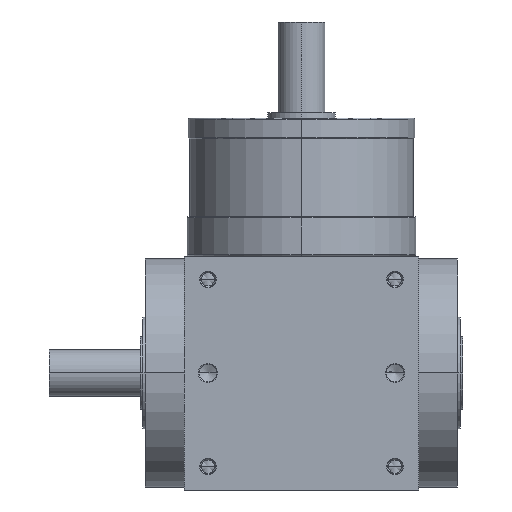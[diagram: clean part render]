
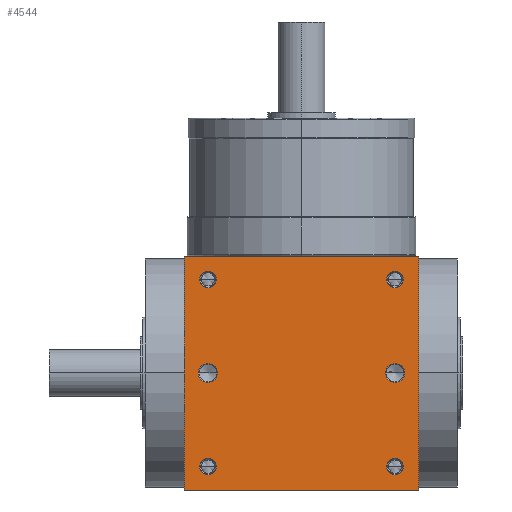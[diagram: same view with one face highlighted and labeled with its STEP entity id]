
A CAD part, front view. The second image highlights one B-rep face of the part: STEP entity #4544.
In plain terms, the highlighted planar face has unit normal (0, -1, 0).
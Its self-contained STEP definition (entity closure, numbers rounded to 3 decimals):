
#5=DIRECTION('',(1.,0.,0.));
#6=VECTOR('',#5,90.);
#7=CARTESIAN_POINT('',(-45.,-45.,-45.));
#8=LINE('',#7,#6);
#155=DIRECTION('',(0.,0.,1.));
#156=VECTOR('',#155,90.);
#157=CARTESIAN_POINT('',(45.,-45.,-45.));
#158=LINE('',#157,#156);
#209=DIRECTION('',(0.,0.,1.));
#210=VECTOR('',#209,90.);
#211=CARTESIAN_POINT('',(-45.,-45.,-45.));
#212=LINE('',#211,#210);
#213=CARTESIAN_POINT('',(36.,-45.,36.));
#214=DIRECTION('',(0.,1.,0.));
#215=DIRECTION('',(-1.,0.,0.));
#216=AXIS2_PLACEMENT_3D('',#213,#214,#215);
#218=CARTESIAN_POINT('',(36.,-45.,36.));
#219=DIRECTION('',(0.,1.,0.));
#220=DIRECTION('',(1.,0.,0.));
#221=AXIS2_PLACEMENT_3D('',#218,#219,#220);
#223=CARTESIAN_POINT('',(-36.,-45.,36.));
#224=DIRECTION('',(0.,1.,0.));
#225=DIRECTION('',(-1.,0.,0.));
#226=AXIS2_PLACEMENT_3D('',#223,#224,#225);
#228=CARTESIAN_POINT('',(-36.,-45.,36.));
#229=DIRECTION('',(0.,1.,0.));
#230=DIRECTION('',(1.,0.,0.));
#231=AXIS2_PLACEMENT_3D('',#228,#229,#230);
#233=CARTESIAN_POINT('',(36.,-45.,-36.));
#234=DIRECTION('',(0.,1.,0.));
#235=DIRECTION('',(-1.,0.,0.));
#236=AXIS2_PLACEMENT_3D('',#233,#234,#235);
#238=CARTESIAN_POINT('',(36.,-45.,-36.));
#239=DIRECTION('',(0.,1.,0.));
#240=DIRECTION('',(1.,0.,0.));
#241=AXIS2_PLACEMENT_3D('',#238,#239,#240);
#243=CARTESIAN_POINT('',(-36.,-45.,-36.));
#244=DIRECTION('',(0.,1.,0.));
#245=DIRECTION('',(-1.,0.,0.));
#246=AXIS2_PLACEMENT_3D('',#243,#244,#245);
#248=CARTESIAN_POINT('',(-36.,-45.,-36.));
#249=DIRECTION('',(0.,1.,0.));
#250=DIRECTION('',(1.,0.,0.));
#251=AXIS2_PLACEMENT_3D('',#248,#249,#250);
#253=CARTESIAN_POINT('',(-36.,-45.,0.));
#254=DIRECTION('',(0.,1.,0.));
#255=DIRECTION('',(1.,0.,0.));
#256=AXIS2_PLACEMENT_3D('',#253,#254,#255);
#258=CARTESIAN_POINT('',(-36.,-45.,0.));
#259=DIRECTION('',(0.,1.,0.));
#260=DIRECTION('',(-1.,0.,0.));
#261=AXIS2_PLACEMENT_3D('',#258,#259,#260);
#263=CARTESIAN_POINT('',(36.,-45.,0.));
#264=DIRECTION('',(0.,1.,0.));
#265=DIRECTION('',(1.,0.,0.));
#266=AXIS2_PLACEMENT_3D('',#263,#264,#265);
#268=CARTESIAN_POINT('',(36.,-45.,0.));
#269=DIRECTION('',(0.,1.,0.));
#270=DIRECTION('',(-1.,0.,0.));
#271=AXIS2_PLACEMENT_3D('',#268,#269,#270);
#285=DIRECTION('',(1.,0.,0.));
#286=VECTOR('',#285,90.);
#287=CARTESIAN_POINT('',(-45.,-45.,45.));
#288=LINE('',#287,#286);
#3628=CARTESIAN_POINT('',(-45.,-45.,-45.));
#3630=VERTEX_POINT('',#3628);
#3631=CARTESIAN_POINT('',(45.,-45.,-45.));
#3632=VERTEX_POINT('',#3631);
#3636=CARTESIAN_POINT('',(-45.,-45.,45.));
#3638=VERTEX_POINT('',#3636);
#3639=CARTESIAN_POINT('',(45.,-45.,45.));
#3640=VERTEX_POINT('',#3639);
#3807=CARTESIAN_POINT('',(32.8,-45.,36.));
#3808=CARTESIAN_POINT('',(39.2,-45.,36.));
#3809=VERTEX_POINT('',#3807);
#3810=VERTEX_POINT('',#3808);
#3815=CARTESIAN_POINT('',(-39.2,-45.,36.));
#3816=CARTESIAN_POINT('',(-32.8,-45.,36.));
#3817=VERTEX_POINT('',#3815);
#3818=VERTEX_POINT('',#3816);
#3823=CARTESIAN_POINT('',(32.8,-45.,-36.));
#3824=CARTESIAN_POINT('',(39.2,-45.,-36.));
#3825=VERTEX_POINT('',#3823);
#3826=VERTEX_POINT('',#3824);
#3831=CARTESIAN_POINT('',(-39.2,-45.,-36.));
#3832=CARTESIAN_POINT('',(-32.8,-45.,-36.));
#3833=VERTEX_POINT('',#3831);
#3834=VERTEX_POINT('',#3832);
#4173=CARTESIAN_POINT('',(-32.35,-45.,0.));
#4174=CARTESIAN_POINT('',(-39.65,-45.,
0.));
#4175=VERTEX_POINT('',#4173);
#4176=VERTEX_POINT('',#4174);
#4181=CARTESIAN_POINT('',(39.65,-45.,0.));
#4182=CARTESIAN_POINT('',(32.35,-45.,0.));
#4183=VERTEX_POINT('',#4181);
#4184=VERTEX_POINT('',#4182);
#4496=CARTESIAN_POINT('',(-45.,-45.,-45.));
#4497=DIRECTION('',(0.,-1.,0.));
#4498=DIRECTION('',(1.,0.,0.));
#4499=AXIS2_PLACEMENT_3D('',#4496,#4497,#4498);
#4500=PLANE('',#4499);
#4501=ORIENTED_EDGE('',*,*,#4336,.F.);
#4502=ORIENTED_EDGE('',*,*,#4379,.T.);
#4504=ORIENTED_EDGE('',*,*,#4503,.T.);
#4505=ORIENTED_EDGE('',*,*,#4458,.F.);
#4506=EDGE_LOOP('',(#4501,#4502,#4504,#4505));
#4507=FACE_OUTER_BOUND('',#4506,.F.);
#4509=ORIENTED_EDGE('',*,*,#4508,.F.);
#4511=ORIENTED_EDGE('',*,*,#4510,.F.);
#4512=EDGE_LOOP('',(#4509,#4511));
#4513=FACE_BOUND('',#4512,.F.);
#4515=ORIENTED_EDGE('',*,*,#4514,.F.);
#4517=ORIENTED_EDGE('',*,*,#4516,.F.);
#4518=EDGE_LOOP('',(#4515,#4517));
#4519=FACE_BOUND('',#4518,.F.);
#4521=ORIENTED_EDGE('',*,*,#4520,.F.);
#4523=ORIENTED_EDGE('',*,*,#4522,.F.);
#4524=EDGE_LOOP('',(#4521,#4523));
#4525=FACE_BOUND('',#4524,.F.);
#4527=ORIENTED_EDGE('',*,*,#4526,.F.);
#4529=ORIENTED_EDGE('',*,*,#4528,.F.);
#4530=EDGE_LOOP('',(#4527,#4529));
#4531=FACE_BOUND('',#4530,.F.);
#4533=ORIENTED_EDGE('',*,*,#4532,.F.);
#4535=ORIENTED_EDGE('',*,*,#4534,.F.);
#4536=EDGE_LOOP('',(#4533,#4535));
#4537=FACE_BOUND('',#4536,.F.);
#4539=ORIENTED_EDGE('',*,*,#4538,.F.);
#4541=ORIENTED_EDGE('',*,*,#4540,.F.);
#4542=EDGE_LOOP('',(#4539,#4541));
#4543=FACE_BOUND('',#4542,.F.);
#4544=ADVANCED_FACE('',(#4507,#4513,#4519,#4525,#4531,#4537,#4543),#4500,.T.);
#217=CIRCLE('',#216,3.2);
#222=CIRCLE('',#221,3.2);
#227=CIRCLE('',#226,3.2);
#232=CIRCLE('',#231,3.2);
#237=CIRCLE('',#236,3.2);
#242=CIRCLE('',#241,3.2);
#247=CIRCLE('',#246,3.2);
#252=CIRCLE('',#251,3.2);
#257=CIRCLE('',#256,3.65);
#262=CIRCLE('',#261,3.65);
#267=CIRCLE('',#266,3.65);
#272=CIRCLE('',#271,3.65);
#4336=EDGE_CURVE('',#3630,#3632,#8,.T.);
#4379=EDGE_CURVE('',#3630,#3638,#212,.T.);
#4458=EDGE_CURVE('',#3632,#3640,#158,.T.);
#4503=EDGE_CURVE('',#3638,#3640,#288,.T.);
#4508=EDGE_CURVE('',#3809,#3810,#217,.T.);
#4510=EDGE_CURVE('',#3810,#3809,#222,.T.);
#4514=EDGE_CURVE('',#3817,#3818,#227,.T.);
#4516=EDGE_CURVE('',#3818,#3817,#232,.T.);
#4520=EDGE_CURVE('',#3825,#3826,#237,.T.);
#4522=EDGE_CURVE('',#3826,#3825,#242,.T.);
#4526=EDGE_CURVE('',#3833,#3834,#247,.T.);
#4528=EDGE_CURVE('',#3834,#3833,#252,.T.);
#4532=EDGE_CURVE('',#4175,#4176,#257,.T.);
#4534=EDGE_CURVE('',#4176,#4175,#262,.T.);
#4538=EDGE_CURVE('',#4183,#4184,#267,.T.);
#4540=EDGE_CURVE('',#4184,#4183,#272,.T.);
